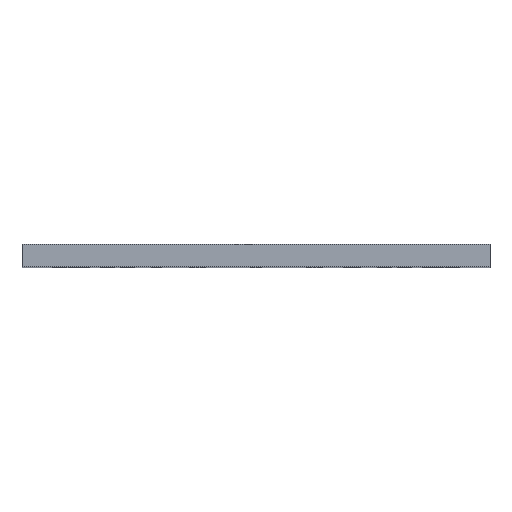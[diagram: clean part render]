
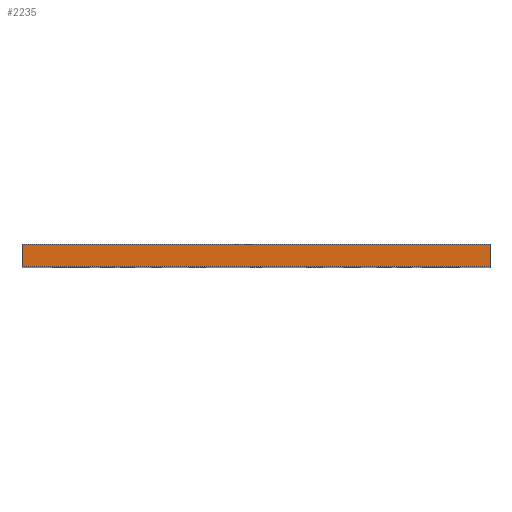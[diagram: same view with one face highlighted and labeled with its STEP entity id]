
A CAD part, top view. The second image highlights one B-rep face of the part: STEP entity #2235.
In plain terms, the highlighted planar face has unit normal (0, 0, 1).
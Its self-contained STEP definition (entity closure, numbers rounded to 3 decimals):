
#9=DIRECTION('',(1.,0.,0.));
#10=VECTOR('',#9,200.);
#11=CARTESIAN_POINT('',(-100.,0.,100.));
#12=LINE('',#11,#10);
#421=DIRECTION('',(0.,1.,0.));
#422=VECTOR('',#421,9.525);
#423=CARTESIAN_POINT('',(100.,0.,100.));
#424=LINE('',#423,#422);
#425=DIRECTION('',(0.,1.,0.));
#426=VECTOR('',#425,9.525);
#427=CARTESIAN_POINT('',(-100.,0.,100.));
#428=LINE('',#427,#426);
#441=DIRECTION('',(1.,0.,0.));
#442=VECTOR('',#441,200.);
#443=CARTESIAN_POINT('',(-100.,9.525,100.));
#444=LINE('',#443,#442);
#1509=CARTESIAN_POINT('',(-100.,0.,100.));
#1510=VERTEX_POINT('',#1509);
#1511=CARTESIAN_POINT('',(100.,0.,100.));
#1512=VERTEX_POINT('',#1511);
#1517=CARTESIAN_POINT('',(-100.,9.525,100.));
#1518=VERTEX_POINT('',#1517);
#1519=CARTESIAN_POINT('',(100.,9.525,100.));
#1520=VERTEX_POINT('',#1519);
#2222=CARTESIAN_POINT('',(-100.,0.,100.));
#2223=DIRECTION('',(0.,0.,1.));
#2224=DIRECTION('',(1.,0.,0.));
#2225=AXIS2_PLACEMENT_3D('',#2222,#2223,#2224);
#2226=PLANE('',#2225);
#2227=ORIENTED_EDGE('',*,*,#1946,.F.);
#2229=ORIENTED_EDGE('',*,*,#2228,.T.);
#2231=ORIENTED_EDGE('',*,*,#2230,.T.);
#2232=ORIENTED_EDGE('',*,*,#2214,.F.);
#2233=EDGE_LOOP('',(#2227,#2229,#2231,#2232));
#2234=FACE_OUTER_BOUND('',#2233,.F.);
#2235=ADVANCED_FACE('',(#2234),#2226,.T.);
#1946=EDGE_CURVE('',#1510,#1512,#12,.T.);
#2214=EDGE_CURVE('',#1512,#1520,#424,.T.);
#2228=EDGE_CURVE('',#1510,#1518,#428,.T.);
#2230=EDGE_CURVE('',#1518,#1520,#444,.T.);
